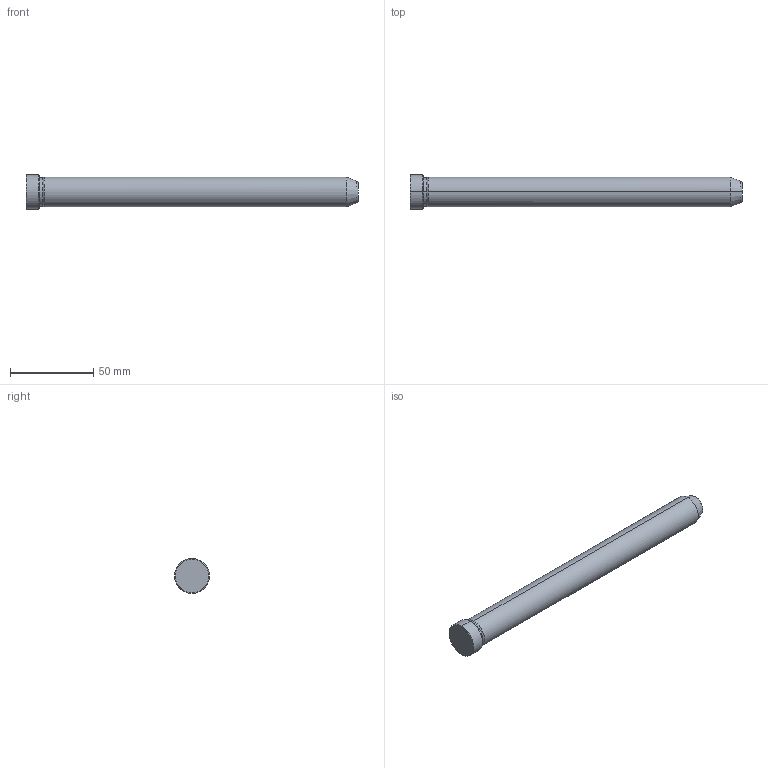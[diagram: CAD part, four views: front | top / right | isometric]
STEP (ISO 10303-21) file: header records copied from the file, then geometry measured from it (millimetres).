
FILE_DESCRIPTION(('CATIA V5 STEP Exchange'),'2;1');
FILE_NAME('C:\Users\Utente\Desktop\IO LAVORO\3D X SITO CF\X SITO\PLASTICA\549\549-18X200.stp','2021-12-11T09:38:48+00:00',('none'),('none'),'CATIA Version 5 Release 20 GA (IN-10)','CATIA V5 STEP AP203','none');
FILE_SCHEMA(('CONFIG_CONTROL_DESIGN'));
Length unit declared in the file: millimetre
Products named in the file (1): 549-18X200
Bounding box: 200 x 21 x 21 mm (x, y, z)
Volume: 51051.8 mm3; surface area: 11904.4 mm2
Topology: 1 solids, 1 shells, 19 faces, 56 edges, 40 vertices
Faces by surface type: cone 8, cylinder 6, plane 3, torus 2
Entity records: 736 total; most frequent: CARTESIAN_POINT 192, ORIENTED_EDGE 112, DIRECTION 86, EDGE_CURVE 56, AXIS2_PLACEMENT_3D 54, VERTEX_POINT 40, CIRCLE 34, EDGE_LOOP 20
